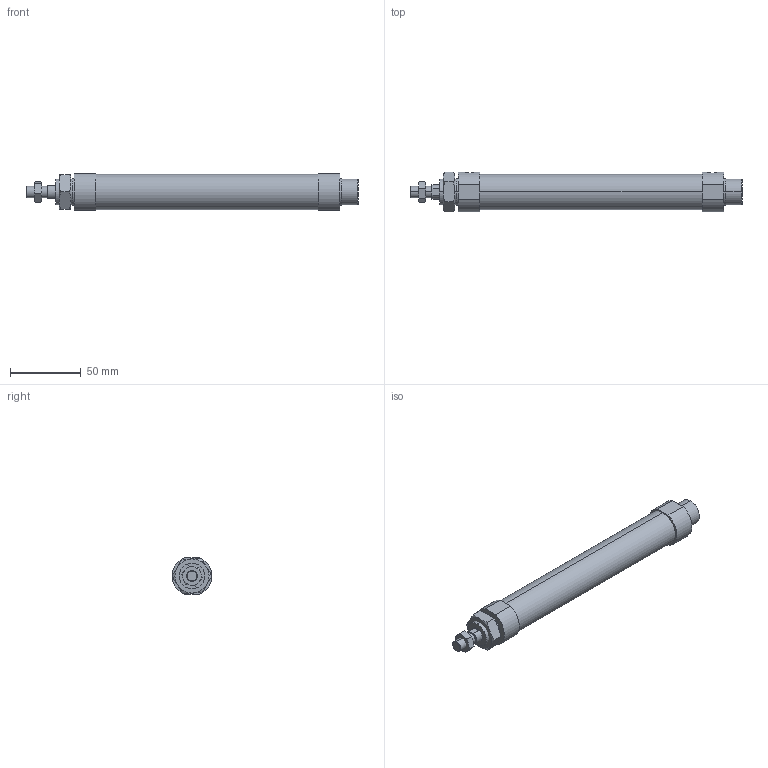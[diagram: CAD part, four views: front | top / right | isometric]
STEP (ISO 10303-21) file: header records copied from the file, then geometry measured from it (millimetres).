
FILE_DESCRIPTION (( 'STEP AP203' ), '1' );
FILE_NAME ('J#2-20-125-N.STEP', '2016-03-08T07:04:36', ( '' ), ( '' ), 'SwSTEP 2.0', 'SolidWorks 2014', '' );
FILE_SCHEMA (( 'CONFIG_CONTROL_DESIGN' ));
Length unit declared in the file: millimetre
Products named in the file (4): J#2-20-125; J#2-20-125-N
Assembly tree (3 placements, depth 2):
  J#2-20-125-N
    J#2-20-125
    (unnamed)
    (unnamed)
Bounding box: 234 x 28 x 26 mm (x, y, z)
Volume: 104296 mm3; surface area: 21259.4 mm2
Topology: 3 solids, 3 shells, 92 faces, 198 edges, 122 vertices
Faces by surface type: plane 36, cylinder 26, torus 24, cone 6
Entity records: 3250 total; most frequent: CARTESIAN_POINT 874, DIRECTION 420, ORIENTED_EDGE 396, EDGE_CURVE 198, AXIS2_PLACEMENT_3D 180, VERTEX_POINT 122, EDGE_LOOP 106, ADVANCED_FACE 92
